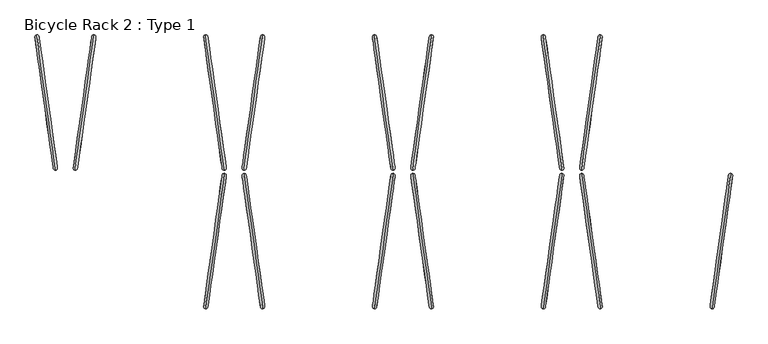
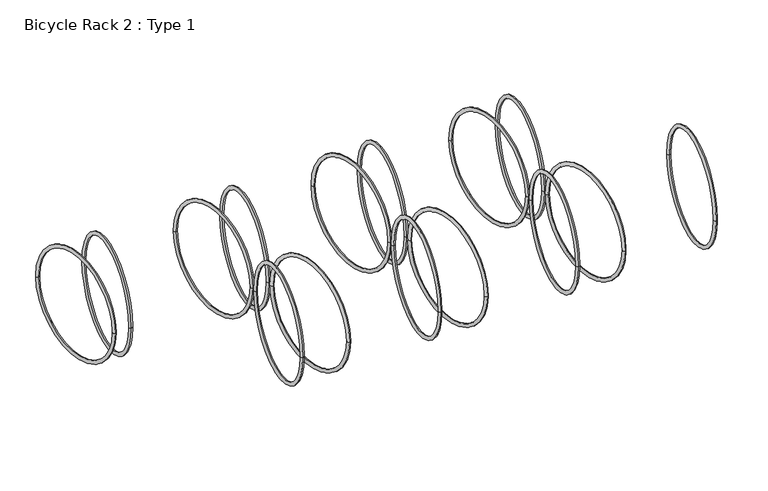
"""IFC4 building model written with IfcOpenShell, lengths in millimetres: proxy geometry, Bicycle Rack 2 : Type 1."""

from ifc_helpers import new_model, si_unit, point, frame, origin, place, context, project, spatial, circle_curve, ellipse_curve, trimmed, source, transform, mapped, element, save
from ifc_brep_helpers import revolved_surface, advanced_brep


def bicycle_rack_2_type_1_3c7dd6e2(model_context):
    return source(origin(), model_context, "Body", "AdvancedBrep", [
        advanced_brep(
        [(-608.2888305, 21.9255981, 304.7993564), (-539.7982681, 509.2612714, 304.7993564), (-537.5888952, 524.981777, 304.7993564), (-610.4982034, 6.2050925, 304.7993564)],
        [
            (0, 1, circle_curve(frame((-574.0435493, 265.5934347, 304.7993564), z_axis=(-0.9902680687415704, 0.13917310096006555, 0.0), x_axis=(0.13917310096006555, 0.9902680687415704, 0.0)), 246.0625)),
            (1, 2, circle_curve(frame((-538.6935817, 517.1215242, 304.7993564), z_axis=(0.0, 0.0, 1.0000000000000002), x_axis=(-0.13917310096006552, -0.9902680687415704, 0.0)), 7.9375)),
            (2, 3, circle_curve(frame((-574.0435493, 265.5934347, 304.7993564), z_axis=(0.9902680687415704, -0.13917310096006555, 0.0), x_axis=(0.13917310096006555, 0.9902680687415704, 0.0)), 261.9375)),
            (3, 0, circle_curve(frame((-609.3935169, 14.0653453, 304.7993564), z_axis=(0.0, 0.0, 1.0000000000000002), x_axis=(0.13917310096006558, 0.9902680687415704, 0.0)), 7.9375)),
            (2, 1, circle_curve(frame((-538.6935817, 517.1215242, 304.7993564), z_axis=(0.0, 0.0, 1.0000000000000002), x_axis=(-0.13917310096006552, -0.9902680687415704, 0.0)), 7.9375)),
            (0, 3, circle_curve(frame((-609.3935169, 14.0653453, 304.7993564), z_axis=(0.0, 0.0, 1.0000000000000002), x_axis=(0.13917310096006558, 0.9902680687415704, 0.0)), 7.9375)),
            (1, 0, circle_curve(frame((-574.0435493, 265.5934347, 304.7993564), z_axis=(-0.9902680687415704, 0.13917310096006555, 0.0), x_axis=(-0.13917310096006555, -0.9902680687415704, 0.0)), 246.0625)),
            (3, 2, circle_curve(frame((-574.0435493, 265.5934347, 304.7993564), z_axis=(0.9902680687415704, -0.13917310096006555, 0.0), x_axis=(-0.13917310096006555, -0.9902680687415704, 0.0)), 261.9375)),
        ],
        [
            revolved_surface(trimmed(ellipse_curve(frame((-538.6935817, 517.1215242, 304.7993564), z_axis=(0.0, 0.0, -1.0000000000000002), x_axis=(-0.13917310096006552, -0.9902680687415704, 0.0)), 7.9375, 7.9375), [point((-537.5888952, 524.981777, 304.7993564))], [point((-539.7982681, 509.2612714, 304.7993564))], True, "CARTESIAN"), (-762.6896164, 292.1059105, 304.7993564), (0.9902680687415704, -0.13917310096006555, 0.0)),
            revolved_surface(trimmed(ellipse_curve(frame((-538.6935817, 517.1215242, 304.7993564), z_axis=(0.0, 0.0, -1.0000000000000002), x_axis=(-0.13917310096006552, -0.9902680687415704, 0.0)), 7.9375, 7.9375), [point((-539.7982681, 509.2612714, 304.7993564))], [point((-537.5888952, 524.981777, 304.7993564))], True, "CARTESIAN"), (-762.6896164, 292.1059105, 304.7993564), (0.9902680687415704, -0.13917310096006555, 0.0)),
            revolved_surface(trimmed(ellipse_curve(frame((-609.3935169, 14.0653453, 304.7993564), z_axis=(0.0, 0.0, 1.0000000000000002), x_axis=(0.13917310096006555, 0.9902680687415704, 0.0)), 7.9375, 7.9375), [point((-610.4982034, 6.2050925, 304.7993564))], [point((-608.2888305, 21.9255981, 304.7993564))], True, "CARTESIAN"), (-762.6896164, 292.1059105, 304.7993564), (0.9902680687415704, -0.13917310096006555, 0.0)),
            revolved_surface(trimmed(ellipse_curve(frame((-609.3935169, 14.0653453, 304.7993564), z_axis=(0.0, 0.0, 1.0000000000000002), x_axis=(0.13917310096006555, 0.9902680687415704, 0.0)), 7.9375, 7.9375), [point((-608.2888305, 21.9255981, 304.7993564))], [point((-610.4982034, 6.2050925, 304.7993564))], True, "CARTESIAN"), (-762.6896164, 292.1059105, 304.7993564), (0.9902680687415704, -0.13917310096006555, 0.0)),
        ],
        [
            (0, [[1, 2, 3, 4]]),
            (1, [[-3, 5, -1, 6]]),
            (2, [[7, -4, 8, -2]]),
            (3, [[-8, -6, -7, -5]]),
        ],
    ),
        advanced_brep(
        [(-687.1111695, 21.9255981, 304.7993564), (-755.6017319, 509.2612714, 304.7993564), (-757.8111048, 524.981777, 304.7993564), (-684.9017966, 6.2050925, 304.7993564)],
        [
            (0, 1, circle_curve(frame((-721.3564507, 265.5934347, 304.7993564), z_axis=(-0.9902680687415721, -0.13917310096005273, 0.0), x_axis=(-0.13917310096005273, 0.9902680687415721, 0.0)), 246.0625)),
            (1, 2, circle_curve(frame((-756.7064183, 517.1215242, 304.7993564), z_axis=(0.0, 0.0, 1.0), x_axis=(0.13917310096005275, -0.9902680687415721, 0.0)), 7.9375)),
            (2, 3, circle_curve(frame((-721.3564507, 265.5934347, 304.7993564), z_axis=(0.9902680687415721, 0.13917310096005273, 0.0), x_axis=(-0.13917310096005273, 0.9902680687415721, 0.0)), 261.9375)),
            (3, 0, circle_curve(frame((-686.0064831, 14.0653453, 304.7993564), z_axis=(0.0, 0.0, 1.0), x_axis=(-0.1391731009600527, 0.9902680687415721, 0.0)), 7.9375)),
            (2, 1, circle_curve(frame((-756.7064183, 517.1215242, 304.7993564), z_axis=(0.0, 0.0, 1.0), x_axis=(0.13917310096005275, -0.9902680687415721, 0.0)), 7.9375)),
            (0, 3, circle_curve(frame((-686.0064831, 14.0653453, 304.7993564), z_axis=(0.0, 0.0, 1.0), x_axis=(-0.1391731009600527, 0.9902680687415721, 0.0)), 7.9375)),
            (1, 0, circle_curve(frame((-721.3564507, 265.5934347, 304.7993564), z_axis=(-0.9902680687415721, -0.13917310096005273, 0.0), x_axis=(0.13917310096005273, -0.9902680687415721, 0.0)), 246.0625)),
            (3, 2, circle_curve(frame((-721.3564507, 265.5934347, 304.7993564), z_axis=(0.9902680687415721, 0.13917310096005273, 0.0), x_axis=(0.13917310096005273, -0.9902680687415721, 0.0)), 261.9375)),
        ],
        [
            revolved_surface(trimmed(ellipse_curve(frame((-756.7064183, 517.1215242, 304.7993564), z_axis=(0.0, 0.0, -1.0), x_axis=(0.13917310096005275, -0.9902680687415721, 0.0)), 7.9375, 7.9375), [point((-757.8111048, 524.981777, 304.7993564))], [point((-755.6017319, 509.2612714, 304.7993564))], True, "CARTESIAN"), (-532.7103836, 292.1059105, 304.7993564), (0.9902680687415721, 0.13917310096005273, 0.0)),
            revolved_surface(trimmed(ellipse_curve(frame((-756.7064183, 517.1215242, 304.7993564), z_axis=(0.0, 0.0, -1.0), x_axis=(0.13917310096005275, -0.9902680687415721, 0.0)), 7.9375, 7.9375), [point((-755.6017319, 509.2612714, 304.7993564))], [point((-757.8111048, 524.981777, 304.7993564))], True, "CARTESIAN"), (-532.7103836, 292.1059105, 304.7993564), (0.9902680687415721, 0.13917310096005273, 0.0)),
            revolved_surface(trimmed(ellipse_curve(frame((-686.0064831, 14.0653453, 304.7993564), z_axis=(0.0, 0.0, 1.0), x_axis=(-0.1391731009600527, 0.9902680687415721, 0.0)), 7.9375, 7.9375), [point((-684.9017966, 6.2050925, 304.7993564))], [point((-687.1111695, 21.9255981, 304.7993564))], True, "CARTESIAN"), (-532.7103836, 292.1059105, 304.7993564), (0.9902680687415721, 0.13917310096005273, 0.0)),
            revolved_surface(trimmed(ellipse_curve(frame((-686.0064831, 14.0653453, 304.7993564), z_axis=(0.0, 0.0, 1.0), x_axis=(-0.1391731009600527, 0.9902680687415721, 0.0)), 7.9375, 7.9375), [point((-687.1111695, 21.9255981, 304.7993564))], [point((-684.9017966, 6.2050925, 304.7993564))], True, "CARTESIAN"), (-532.7103836, 292.1059105, 304.7993564), (0.9902680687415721, 0.13917310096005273, 0.0)),
        ],
        [
            (0, [[1, 2, 3, 4]]),
            (1, [[-3, 5, -1, 6]]),
            (2, [[7, -4, 8, -2]]),
            (3, [[-8, -6, -7, -5]]),
        ],
    ),
        advanced_brep(
        [(-39.4111695, -21.9255981, 304.7993564), (-107.9017319, -509.2612714, 304.7993564), (-110.1111048, -524.981777, 304.7993564), (-37.2017966, -6.2050925, 304.7993564)],
        [
            (0, 1, circle_curve(frame((-73.6564507, -265.5934347, 304.7993564), z_axis=(0.990268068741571, -0.13917310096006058, 0.0), x_axis=(-0.13917310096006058, -0.990268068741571, 0.0)), 246.0625)),
            (1, 2, circle_curve(frame((-109.0064183, -517.1215242, 304.7993564), z_axis=(0.0, 0.0, 1.0), x_axis=(0.13917310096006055, 0.990268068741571, 0.0)), 7.9375)),
            (2, 3, circle_curve(frame((-73.6564507, -265.5934347, 304.7993564), z_axis=(-0.990268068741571, 0.13917310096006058, 0.0), x_axis=(-0.13917310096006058, -0.990268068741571, 0.0)), 261.9375)),
            (3, 0, circle_curve(frame((-38.3064831, -14.0653453, 304.7993564), z_axis=(0.0, 0.0, 1.0), x_axis=(-0.1391731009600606, -0.990268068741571, 0.0)), 7.9375)),
            (2, 1, circle_curve(frame((-109.0064183, -517.1215242, 304.7993564), z_axis=(0.0, 0.0, 1.0), x_axis=(0.13917310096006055, 0.990268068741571, 0.0)), 7.9375)),
            (0, 3, circle_curve(frame((-38.3064831, -14.0653453, 304.7993564), z_axis=(0.0, 0.0, 1.0), x_axis=(-0.1391731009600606, -0.990268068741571, 0.0)), 7.9375)),
            (1, 0, circle_curve(frame((-73.6564507, -265.5934347, 304.7993564), z_axis=(0.990268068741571, -0.13917310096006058, 0.0), x_axis=(0.13917310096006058, 0.990268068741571, 0.0)), 246.0625)),
            (3, 2, circle_curve(frame((-73.6564507, -265.5934347, 304.7993564), z_axis=(-0.990268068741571, 0.13917310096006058, 0.0), x_axis=(0.13917310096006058, 0.990268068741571, 0.0)), 261.9375)),
        ],
        [
            revolved_surface(trimmed(ellipse_curve(frame((-109.0064183, -517.1215242, 304.7993564), z_axis=(0.0, 0.0, -1.0), x_axis=(0.13917310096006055, 0.990268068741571, 0.0)), 7.9375, 7.9375), [point((-110.1111048, -524.981777, 304.7993564))], [point((-107.9017319, -509.2612714, 304.7993564))], True, "CARTESIAN"), (114.9896164, -292.1059105, 304.7993564), (-0.990268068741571, 0.13917310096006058, 0.0)),
            revolved_surface(trimmed(ellipse_curve(frame((-109.0064183, -517.1215242, 304.7993564), z_axis=(0.0, 0.0, -1.0), x_axis=(0.13917310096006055, 0.990268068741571, 0.0)), 7.9375, 7.9375), [point((-107.9017319, -509.2612714, 304.7993564))], [point((-110.1111048, -524.981777, 304.7993564))], True, "CARTESIAN"), (114.9896164, -292.1059105, 304.7993564), (-0.990268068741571, 0.13917310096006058, 0.0)),
            revolved_surface(trimmed(ellipse_curve(frame((-38.3064831, -14.0653453, 304.7993564), z_axis=(0.0, 0.0, 1.0), x_axis=(-0.13917310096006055, -0.990268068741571, 0.0)), 7.9375, 7.9375), [point((-37.2017966, -6.2050925, 304.7993564))], [point((-39.4111695, -21.9255981, 304.7993564))], True, "CARTESIAN"), (114.9896164, -292.1059105, 304.7993564), (-0.990268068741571, 0.13917310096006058, 0.0)),
            revolved_surface(trimmed(ellipse_curve(frame((-38.3064831, -14.0653453, 304.7993564), z_axis=(0.0, 0.0, 1.0), x_axis=(-0.13917310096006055, -0.990268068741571, 0.0)), 7.9375, 7.9375), [point((-39.4111695, -21.9255981, 304.7993564))], [point((-37.2017966, -6.2050925, 304.7993564))], True, "CARTESIAN"), (114.9896164, -292.1059105, 304.7993564), (-0.990268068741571, 0.13917310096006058, 0.0)),
        ],
        [
            (0, [[1, 2, 3, 4]]),
            (1, [[-3, 5, -1, 6]]),
            (2, [[7, -4, 8, -2]]),
            (3, [[-8, -6, -7, -5]]),
        ],
    ),
        advanced_brep(
        [(39.4111695, -21.9255981, 304.7993564), (107.9017319, -509.2612714, 304.7993564), (110.1111048, -524.981777, 304.7993564), (37.2017966, -6.2050925, 304.7993564)],
        [
            (0, 1, circle_curve(frame((73.6564507, -265.5934347, 304.7993564), z_axis=(0.9902680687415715, 0.1391731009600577, 0.0), x_axis=(0.1391731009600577, -0.9902680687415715, 0.0)), 246.0625)),
            (1, 2, circle_curve(frame((109.0064183, -517.1215242, 304.7993564), z_axis=(0.0, 0.0, 1.0), x_axis=(-0.13917310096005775, 0.9902680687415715, 0.0)), 7.9375)),
            (2, 3, circle_curve(frame((73.6564507, -265.5934347, 304.7993564), z_axis=(-0.9902680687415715, -0.1391731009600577, 0.0), x_axis=(0.1391731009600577, -0.9902680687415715, 0.0)), 261.9375)),
            (3, 0, circle_curve(frame((38.3064831, -14.0653453, 304.7993564), z_axis=(0.0, 0.0, 1.0), x_axis=(0.13917310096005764, -0.9902680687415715, 0.0)), 7.9375)),
            (2, 1, circle_curve(frame((109.0064183, -517.1215242, 304.7993564), z_axis=(0.0, 0.0, 1.0), x_axis=(-0.13917310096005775, 0.9902680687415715, 0.0)), 7.9375)),
            (0, 3, circle_curve(frame((38.3064831, -14.0653453, 304.7993564), z_axis=(0.0, 0.0, 1.0), x_axis=(0.13917310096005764, -0.9902680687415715, 0.0)), 7.9375)),
            (1, 0, circle_curve(frame((73.6564507, -265.5934347, 304.7993564), z_axis=(0.9902680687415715, 0.1391731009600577, 0.0), x_axis=(-0.1391731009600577, 0.9902680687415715, 0.0)), 246.0625)),
            (3, 2, circle_curve(frame((73.6564507, -265.5934347, 304.7993564), z_axis=(-0.9902680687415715, -0.1391731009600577, 0.0), x_axis=(-0.1391731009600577, 0.9902680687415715, 0.0)), 261.9375)),
        ],
        [
            revolved_surface(trimmed(ellipse_curve(frame((109.0064183, -517.1215242, 304.7993564), z_axis=(0.0, 0.0, -1.0), x_axis=(-0.13917310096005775, 0.9902680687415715, 0.0)), 7.9375, 7.9375), [point((110.1111048, -524.981777, 304.7993564))], [point((107.9017319, -509.2612714, 304.7993564))], True, "CARTESIAN"), (-114.9896164, -292.1059105, 304.7993564), (-0.9902680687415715, -0.1391731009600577, 0.0)),
            revolved_surface(trimmed(ellipse_curve(frame((109.0064183, -517.1215242, 304.7993564), z_axis=(0.0, 0.0, -1.0), x_axis=(-0.13917310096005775, 0.9902680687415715, 0.0)), 7.9375, 7.9375), [point((107.9017319, -509.2612714, 304.7993564))], [point((110.1111048, -524.981777, 304.7993564))], True, "CARTESIAN"), (-114.9896164, -292.1059105, 304.7993564), (-0.9902680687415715, -0.1391731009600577, 0.0)),
            revolved_surface(trimmed(ellipse_curve(frame((38.3064831, -14.0653453, 304.7993564), z_axis=(0.0, 0.0, 1.0), x_axis=(0.1391731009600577, -0.9902680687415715, 0.0)), 7.9375, 7.9375), [point((37.2017966, -6.2050925, 304.7993564))], [point((39.4111695, -21.9255981, 304.7993564))], True, "CARTESIAN"), (-114.9896164, -292.1059105, 304.7993564), (-0.9902680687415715, -0.1391731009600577, 0.0)),
            revolved_surface(trimmed(ellipse_curve(frame((38.3064831, -14.0653453, 304.7993564), z_axis=(0.0, 0.0, 1.0), x_axis=(0.1391731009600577, -0.9902680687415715, 0.0)), 7.9375, 7.9375), [point((39.4111695, -21.9255981, 304.7993564))], [point((37.2017966, -6.2050925, 304.7993564))], True, "CARTESIAN"), (-114.9896164, -292.1059105, 304.7993564), (-0.9902680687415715, -0.1391731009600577, 0.0)),
        ],
        [
            (0, [[1, 2, 3, 4]]),
            (1, [[-3, 5, -1, 6]]),
            (2, [[7, -4, 8, -2]]),
            (3, [[-8, -6, -7, -5]]),
        ],
    ),
        advanced_brep(
        [(39.4111695, 21.9255981, 304.7993564), (107.9017319, 509.2612714, 304.7993564), (110.1111048, 524.981777, 304.7993564), (37.2017966, 6.2050925, 304.7993564)],
        [
            (0, 1, circle_curve(frame((73.6564507, 265.5934347, 304.7993564), z_axis=(-0.9902680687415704, 0.13917310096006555, 0.0), x_axis=(0.13917310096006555, 0.9902680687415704, 0.0)), 246.0625)),
            (1, 2, circle_curve(frame((109.0064183, 517.1215242, 304.7993564), z_axis=(0.0, 0.0, 1.0000000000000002), x_axis=(-0.13917310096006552, -0.9902680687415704, 0.0)), 7.9375)),
            (2, 3, circle_curve(frame((73.6564507, 265.5934347, 304.7993564), z_axis=(0.9902680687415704, -0.13917310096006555, 0.0), x_axis=(0.13917310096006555, 0.9902680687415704, 0.0)), 261.9375)),
            (3, 0, circle_curve(frame((38.3064831, 14.0653453, 304.7993564), z_axis=(0.0, 0.0, 1.0000000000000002), x_axis=(0.13917310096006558, 0.9902680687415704, 0.0)), 7.9375)),
            (2, 1, circle_curve(frame((109.0064183, 517.1215242, 304.7993564), z_axis=(0.0, 0.0, 1.0000000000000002), x_axis=(-0.13917310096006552, -0.9902680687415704, 0.0)), 7.9375)),
            (0, 3, circle_curve(frame((38.3064831, 14.0653453, 304.7993564), z_axis=(0.0, 0.0, 1.0000000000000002), x_axis=(0.13917310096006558, 0.9902680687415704, 0.0)), 7.9375)),
            (1, 0, circle_curve(frame((73.6564507, 265.5934347, 304.7993564), z_axis=(-0.9902680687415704, 0.13917310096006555, 0.0), x_axis=(-0.13917310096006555, -0.9902680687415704, 0.0)), 246.0625)),
            (3, 2, circle_curve(frame((73.6564507, 265.5934347, 304.7993564), z_axis=(0.9902680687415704, -0.13917310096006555, 0.0), x_axis=(-0.13917310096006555, -0.9902680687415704, 0.0)), 261.9375)),
        ],
        [
            revolved_surface(trimmed(ellipse_curve(frame((109.0064183, 517.1215242, 304.7993564), z_axis=(0.0, 0.0, -1.0000000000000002), x_axis=(-0.13917310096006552, -0.9902680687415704, 0.0)), 7.9375, 7.9375), [point((110.1111048, 524.981777, 304.7993564))], [point((107.9017319, 509.2612714, 304.7993564))], True, "CARTESIAN"), (-114.9896164, 292.1059105, 304.7993564), (0.9902680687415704, -0.13917310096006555, 0.0)),
            revolved_surface(trimmed(ellipse_curve(frame((109.0064183, 517.1215242, 304.7993564), z_axis=(0.0, 0.0, -1.0000000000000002), x_axis=(-0.13917310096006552, -0.9902680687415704, 0.0)), 7.9375, 7.9375), [point((107.9017319, 509.2612714, 304.7993564))], [point((110.1111048, 524.981777, 304.7993564))], True, "CARTESIAN"), (-114.9896164, 292.1059105, 304.7993564), (0.9902680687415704, -0.13917310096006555, 0.0)),
            revolved_surface(trimmed(ellipse_curve(frame((38.3064831, 14.0653453, 304.7993564), z_axis=(0.0, 0.0, 1.0000000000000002), x_axis=(0.13917310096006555, 0.9902680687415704, 0.0)), 7.9375, 7.9375), [point((37.2017966, 6.2050925, 304.7993564))], [point((39.4111695, 21.9255981, 304.7993564))], True, "CARTESIAN"), (-114.9896164, 292.1059105, 304.7993564), (0.9902680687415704, -0.13917310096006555, 0.0)),
            revolved_surface(trimmed(ellipse_curve(frame((38.3064831, 14.0653453, 304.7993564), z_axis=(0.0, 0.0, 1.0000000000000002), x_axis=(0.13917310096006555, 0.9902680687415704, 0.0)), 7.9375, 7.9375), [point((39.4111695, 21.9255981, 304.7993564))], [point((37.2017966, 6.2050925, 304.7993564))], True, "CARTESIAN"), (-114.9896164, 292.1059105, 304.7993564), (0.9902680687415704, -0.13917310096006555, 0.0)),
        ],
        [
            (0, [[1, 2, 3, 4]]),
            (1, [[-3, 5, -1, 6]]),
            (2, [[7, -4, 8, -2]]),
            (3, [[-8, -6, -7, -5]]),
        ],
    ),
        advanced_brep(
        [(-39.4111695, 21.9255981, 304.7993564), (-107.9017319, 509.2612714, 304.7993564), (-110.1111048, 524.981777, 304.7993564), (-37.2017966, 6.2050925, 304.7993564)],
        [
            (0, 1, circle_curve(frame((-73.6564507, 265.5934347, 304.7993564), z_axis=(-0.9902680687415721, -0.13917310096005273, 0.0), x_axis=(-0.13917310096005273, 0.9902680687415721, 0.0)), 246.0625)),
            (1, 2, circle_curve(frame((-109.0064183, 517.1215242, 304.7993564), z_axis=(0.0, 0.0, 1.0), x_axis=(0.13917310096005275, -0.9902680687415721, 0.0)), 7.9375)),
            (2, 3, circle_curve(frame((-73.6564507, 265.5934347, 304.7993564), z_axis=(0.9902680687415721, 0.13917310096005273, 0.0), x_axis=(-0.13917310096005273, 0.9902680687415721, 0.0)), 261.9375)),
            (3, 0, circle_curve(frame((-38.3064831, 14.0653453, 304.7993564), z_axis=(0.0, 0.0, 1.0), x_axis=(-0.1391731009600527, 0.9902680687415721, 0.0)), 7.9375)),
            (2, 1, circle_curve(frame((-109.0064183, 517.1215242, 304.7993564), z_axis=(0.0, 0.0, 1.0), x_axis=(0.13917310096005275, -0.9902680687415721, 0.0)), 7.9375)),
            (0, 3, circle_curve(frame((-38.3064831, 14.0653453, 304.7993564), z_axis=(0.0, 0.0, 1.0), x_axis=(-0.1391731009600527, 0.9902680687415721, 0.0)), 7.9375)),
            (1, 0, circle_curve(frame((-73.6564507, 265.5934347, 304.7993564), z_axis=(-0.9902680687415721, -0.13917310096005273, 0.0), x_axis=(0.13917310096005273, -0.9902680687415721, 0.0)), 246.0625)),
            (3, 2, circle_curve(frame((-73.6564507, 265.5934347, 304.7993564), z_axis=(0.9902680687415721, 0.13917310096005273, 0.0), x_axis=(0.13917310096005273, -0.9902680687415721, 0.0)), 261.9375)),
        ],
        [
            revolved_surface(trimmed(ellipse_curve(frame((-109.0064183, 517.1215242, 304.7993564), z_axis=(0.0, 0.0, -1.0), x_axis=(0.13917310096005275, -0.9902680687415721, 0.0)), 7.9375, 7.9375), [point((-110.1111048, 524.981777, 304.7993564))], [point((-107.9017319, 509.2612714, 304.7993564))], True, "CARTESIAN"), (114.9896164, 292.1059105, 304.7993564), (0.9902680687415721, 0.13917310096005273, 0.0)),
            revolved_surface(trimmed(ellipse_curve(frame((-109.0064183, 517.1215242, 304.7993564), z_axis=(0.0, 0.0, -1.0), x_axis=(0.13917310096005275, -0.9902680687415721, 0.0)), 7.9375, 7.9375), [point((-107.9017319, 509.2612714, 304.7993564))], [point((-110.1111048, 524.981777, 304.7993564))], True, "CARTESIAN"), (114.9896164, 292.1059105, 304.7993564), (0.9902680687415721, 0.13917310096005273, 0.0)),
            revolved_surface(trimmed(ellipse_curve(frame((-38.3064831, 14.0653453, 304.7993564), z_axis=(0.0, 0.0, 1.0), x_axis=(-0.1391731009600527, 0.9902680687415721, 0.0)), 7.9375, 7.9375), [point((-37.2017966, 6.2050925, 304.7993564))], [point((-39.4111695, 21.9255981, 304.7993564))], True, "CARTESIAN"), (114.9896164, 292.1059105, 304.7993564), (0.9902680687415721, 0.13917310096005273, 0.0)),
            revolved_surface(trimmed(ellipse_curve(frame((-38.3064831, 14.0653453, 304.7993564), z_axis=(0.0, 0.0, 1.0), x_axis=(-0.1391731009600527, 0.9902680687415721, 0.0)), 7.9375, 7.9375), [point((-39.4111695, 21.9255981, 304.7993564))], [point((-37.2017966, 6.2050925, 304.7993564))], True, "CARTESIAN"), (114.9896164, 292.1059105, 304.7993564), (0.9902680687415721, 0.13917310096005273, 0.0)),
        ],
        [
            (0, [[1, 2, 3, 4]]),
            (1, [[-3, 5, -1, 6]]),
            (2, [[7, -4, 8, -2]]),
            (3, [[-8, -6, -7, -5]]),
        ],
    ),
        advanced_brep(
        [(608.2888305, -21.9255981, 304.7993564), (539.7982681, -509.2612714, 304.7993564), (537.5888952, -524.981777, 304.7993564), (610.4982034, -6.2050925, 304.7993564)],
        [
            (0, 1, circle_curve(frame((574.0435493, -265.5934347, 304.7993564), z_axis=(0.990268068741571, -0.13917310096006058, 0.0), x_axis=(-0.13917310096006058, -0.990268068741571, 0.0)), 246.0625)),
            (1, 2, circle_curve(frame((538.6935817, -517.1215242, 304.7993564), z_axis=(0.0, 0.0, 1.0), x_axis=(0.13917310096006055, 0.990268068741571, 0.0)), 7.9375)),
            (2, 3, circle_curve(frame((574.0435493, -265.5934347, 304.7993564), z_axis=(-0.990268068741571, 0.13917310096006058, 0.0), x_axis=(-0.13917310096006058, -0.990268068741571, 0.0)), 261.9375)),
            (3, 0, circle_curve(frame((609.3935169, -14.0653453, 304.7993564), z_axis=(0.0, 0.0, 1.0), x_axis=(-0.1391731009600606, -0.990268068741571, 0.0)), 7.9375)),
            (2, 1, circle_curve(frame((538.6935817, -517.1215242, 304.7993564), z_axis=(0.0, 0.0, 1.0), x_axis=(0.13917310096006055, 0.990268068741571, 0.0)), 7.9375)),
            (0, 3, circle_curve(frame((609.3935169, -14.0653453, 304.7993564), z_axis=(0.0, 0.0, 1.0), x_axis=(-0.1391731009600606, -0.990268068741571, 0.0)), 7.9375)),
            (1, 0, circle_curve(frame((574.0435493, -265.5934347, 304.7993564), z_axis=(0.990268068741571, -0.13917310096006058, 0.0), x_axis=(0.13917310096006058, 0.990268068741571, 0.0)), 246.0625)),
            (3, 2, circle_curve(frame((574.0435493, -265.5934347, 304.7993564), z_axis=(-0.990268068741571, 0.13917310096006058, 0.0), x_axis=(0.13917310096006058, 0.990268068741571, 0.0)), 261.9375)),
        ],
        [
            revolved_surface(trimmed(ellipse_curve(frame((538.6935817, -517.1215242, 304.7993564), z_axis=(0.0, 0.0, -1.0), x_axis=(0.13917310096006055, 0.990268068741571, 0.0)), 7.9375, 7.9375), [point((537.5888952, -524.981777, 304.7993564))], [point((539.7982681, -509.2612714, 304.7993564))], True, "CARTESIAN"), (762.6896164, -292.1059105, 304.7993564), (-0.990268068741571, 0.13917310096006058, 0.0)),
            revolved_surface(trimmed(ellipse_curve(frame((538.6935817, -517.1215242, 304.7993564), z_axis=(0.0, 0.0, -1.0), x_axis=(0.13917310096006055, 0.990268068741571, 0.0)), 7.9375, 7.9375), [point((539.7982681, -509.2612714, 304.7993564))], [point((537.5888952, -524.981777, 304.7993564))], True, "CARTESIAN"), (762.6896164, -292.1059105, 304.7993564), (-0.990268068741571, 0.13917310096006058, 0.0)),
            revolved_surface(trimmed(ellipse_curve(frame((609.3935169, -14.0653453, 304.7993564), z_axis=(0.0, 0.0, 1.0), x_axis=(-0.13917310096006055, -0.990268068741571, 0.0)), 7.9375, 7.9375), [point((610.4982034, -6.2050925, 304.7993564))], [point((608.2888305, -21.9255981, 304.7993564))], True, "CARTESIAN"), (762.6896164, -292.1059105, 304.7993564), (-0.990268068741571, 0.13917310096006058, 0.0)),
            revolved_surface(trimmed(ellipse_curve(frame((609.3935169, -14.0653453, 304.7993564), z_axis=(0.0, 0.0, 1.0), x_axis=(-0.13917310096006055, -0.990268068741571, 0.0)), 7.9375, 7.9375), [point((608.2888305, -21.9255981, 304.7993564))], [point((610.4982034, -6.2050925, 304.7993564))], True, "CARTESIAN"), (762.6896164, -292.1059105, 304.7993564), (-0.990268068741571, 0.13917310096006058, 0.0)),
        ],
        [
            (0, [[1, 2, 3, 4]]),
            (1, [[-3, 5, -1, 6]]),
            (2, [[7, -4, 8, -2]]),
            (3, [[-8, -6, -7, -5]]),
        ],
    ),
        advanced_brep(
        [(687.1111695, -21.9255981, 304.7993564), (755.6017319, -509.2612714, 304.7993564), (757.8111048, -524.981777, 304.7993564), (684.9017966, -6.2050925, 304.7993564)],
        [
            (0, 1, circle_curve(frame((721.3564507, -265.5934347, 304.7993564), z_axis=(0.9902680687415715, 0.1391731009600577, 0.0), x_axis=(0.1391731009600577, -0.9902680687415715, 0.0)), 246.0625)),
            (1, 2, circle_curve(frame((756.7064183, -517.1215242, 304.7993564), z_axis=(0.0, 0.0, 1.0), x_axis=(-0.13917310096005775, 0.9902680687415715, 0.0)), 7.9375)),
            (2, 3, circle_curve(frame((721.3564507, -265.5934347, 304.7993564), z_axis=(-0.9902680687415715, -0.1391731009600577, 0.0), x_axis=(0.1391731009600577, -0.9902680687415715, 0.0)), 261.9375)),
            (3, 0, circle_curve(frame((686.0064831, -14.0653453, 304.7993564), z_axis=(0.0, 0.0, 1.0), x_axis=(0.13917310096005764, -0.9902680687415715, 0.0)), 7.9375)),
            (2, 1, circle_curve(frame((756.7064183, -517.1215242, 304.7993564), z_axis=(0.0, 0.0, 1.0), x_axis=(-0.13917310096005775, 0.9902680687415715, 0.0)), 7.9375)),
            (0, 3, circle_curve(frame((686.0064831, -14.0653453, 304.7993564), z_axis=(0.0, 0.0, 1.0), x_axis=(0.13917310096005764, -0.9902680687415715, 0.0)), 7.9375)),
            (1, 0, circle_curve(frame((721.3564507, -265.5934347, 304.7993564), z_axis=(0.9902680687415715, 0.1391731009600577, 0.0), x_axis=(-0.1391731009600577, 0.9902680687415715, 0.0)), 246.0625)),
            (3, 2, circle_curve(frame((721.3564507, -265.5934347, 304.7993564), z_axis=(-0.9902680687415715, -0.1391731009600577, 0.0), x_axis=(-0.1391731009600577, 0.9902680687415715, 0.0)), 261.9375)),
        ],
        [
            revolved_surface(trimmed(ellipse_curve(frame((756.7064183, -517.1215242, 304.7993564), z_axis=(0.0, 0.0, -1.0), x_axis=(-0.13917310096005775, 0.9902680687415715, 0.0)), 7.9375, 7.9375), [point((757.8111048, -524.981777, 304.7993564))], [point((755.6017319, -509.2612714, 304.7993564))], True, "CARTESIAN"), (532.7103836, -292.1059105, 304.7993564), (-0.9902680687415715, -0.1391731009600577, 0.0)),
            revolved_surface(trimmed(ellipse_curve(frame((756.7064183, -517.1215242, 304.7993564), z_axis=(0.0, 0.0, -1.0), x_axis=(-0.13917310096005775, 0.9902680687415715, 0.0)), 7.9375, 7.9375), [point((755.6017319, -509.2612714, 304.7993564))], [point((757.8111048, -524.981777, 304.7993564))], True, "CARTESIAN"), (532.7103836, -292.1059105, 304.7993564), (-0.9902680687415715, -0.1391731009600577, 0.0)),
            revolved_surface(trimmed(ellipse_curve(frame((686.0064831, -14.0653453, 304.7993564), z_axis=(0.0, 0.0, 1.0), x_axis=(0.1391731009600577, -0.9902680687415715, 0.0)), 7.9375, 7.9375), [point((684.9017966, -6.2050925, 304.7993564))], [point((687.1111695, -21.9255981, 304.7993564))], True, "CARTESIAN"), (532.7103836, -292.1059105, 304.7993564), (-0.9902680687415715, -0.1391731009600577, 0.0)),
            revolved_surface(trimmed(ellipse_curve(frame((686.0064831, -14.0653453, 304.7993564), z_axis=(0.0, 0.0, 1.0), x_axis=(0.1391731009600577, -0.9902680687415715, 0.0)), 7.9375, 7.9375), [point((687.1111695, -21.9255981, 304.7993564))], [point((684.9017966, -6.2050925, 304.7993564))], True, "CARTESIAN"), (532.7103836, -292.1059105, 304.7993564), (-0.9902680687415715, -0.1391731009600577, 0.0)),
        ],
        [
            (0, [[1, 2, 3, 4]]),
            (1, [[-3, 5, -1, 6]]),
            (2, [[7, -4, 8, -2]]),
            (3, [[-8, -6, -7, -5]]),
        ],
    ),
        advanced_brep(
        [(687.1111695, 21.9255981, 304.7993564), (755.6017319, 509.2612714, 304.7993564), (757.8111048, 524.981777, 304.7993564), (684.9017966, 6.2050925, 304.7993564)],
        [
            (0, 1, circle_curve(frame((721.3564507, 265.5934347, 304.7993564), z_axis=(-0.9902680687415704, 0.13917310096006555, 0.0), x_axis=(0.13917310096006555, 0.9902680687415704, 0.0)), 246.0625)),
            (1, 2, circle_curve(frame((756.7064183, 517.1215242, 304.7993564), z_axis=(0.0, 0.0, 1.0000000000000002), x_axis=(-0.13917310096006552, -0.9902680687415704, 0.0)), 7.9375)),
            (2, 3, circle_curve(frame((721.3564507, 265.5934347, 304.7993564), z_axis=(0.9902680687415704, -0.13917310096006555, 0.0), x_axis=(0.13917310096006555, 0.9902680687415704, 0.0)), 261.9375)),
            (3, 0, circle_curve(frame((686.0064831, 14.0653453, 304.7993564), z_axis=(0.0, 0.0, 1.0000000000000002), x_axis=(0.13917310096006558, 0.9902680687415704, 0.0)), 7.9375)),
            (2, 1, circle_curve(frame((756.7064183, 517.1215242, 304.7993564), z_axis=(0.0, 0.0, 1.0000000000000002), x_axis=(-0.13917310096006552, -0.9902680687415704, 0.0)), 7.9375)),
            (0, 3, circle_curve(frame((686.0064831, 14.0653453, 304.7993564), z_axis=(0.0, 0.0, 1.0000000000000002), x_axis=(0.13917310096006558, 0.9902680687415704, 0.0)), 7.9375)),
            (1, 0, circle_curve(frame((721.3564507, 265.5934347, 304.7993564), z_axis=(-0.9902680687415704, 0.13917310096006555, 0.0), x_axis=(-0.13917310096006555, -0.9902680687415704, 0.0)), 246.0625)),
            (3, 2, circle_curve(frame((721.3564507, 265.5934347, 304.7993564), z_axis=(0.9902680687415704, -0.13917310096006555, 0.0), x_axis=(-0.13917310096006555, -0.9902680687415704, 0.0)), 261.9375)),
        ],
        [
            revolved_surface(trimmed(ellipse_curve(frame((756.7064183, 517.1215242, 304.7993564), z_axis=(0.0, 0.0, -1.0000000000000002), x_axis=(-0.13917310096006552, -0.9902680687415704, 0.0)), 7.9375, 7.9375), [point((757.8111048, 524.981777, 304.7993564))], [point((755.6017319, 509.2612714, 304.7993564))], True, "CARTESIAN"), (532.7103836, 292.1059105, 304.7993564), (0.9902680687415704, -0.13917310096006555, 0.0)),
            revolved_surface(trimmed(ellipse_curve(frame((756.7064183, 517.1215242, 304.7993564), z_axis=(0.0, 0.0, -1.0000000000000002), x_axis=(-0.13917310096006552, -0.9902680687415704, 0.0)), 7.9375, 7.9375), [point((755.6017319, 509.2612714, 304.7993564))], [point((757.8111048, 524.981777, 304.7993564))], True, "CARTESIAN"), (532.7103836, 292.1059105, 304.7993564), (0.9902680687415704, -0.13917310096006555, 0.0)),
            revolved_surface(trimmed(ellipse_curve(frame((686.0064831, 14.0653453, 304.7993564), z_axis=(0.0, 0.0, 1.0000000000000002), x_axis=(0.13917310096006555, 0.9902680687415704, 0.0)), 7.9375, 7.9375), [point((684.9017966, 6.2050925, 304.7993564))], [point((687.1111695, 21.9255981, 304.7993564))], True, "CARTESIAN"), (532.7103836, 292.1059105, 304.7993564), (0.9902680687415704, -0.13917310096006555, 0.0)),
            revolved_surface(trimmed(ellipse_curve(frame((686.0064831, 14.0653453, 304.7993564), z_axis=(0.0, 0.0, 1.0000000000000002), x_axis=(0.13917310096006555, 0.9902680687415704, 0.0)), 7.9375, 7.9375), [point((687.1111695, 21.9255981, 304.7993564))], [point((684.9017966, 6.2050925, 304.7993564))], True, "CARTESIAN"), (532.7103836, 292.1059105, 304.7993564), (0.9902680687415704, -0.13917310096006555, 0.0)),
        ],
        [
            (0, [[1, 2, 3, 4]]),
            (1, [[-3, 5, -1, 6]]),
            (2, [[7, -4, 8, -2]]),
            (3, [[-8, -6, -7, -5]]),
        ],
    ),
        advanced_brep(
        [(608.2888305, 21.9255981, 304.7993564), (539.7982681, 509.2612714, 304.7993564), (537.5888952, 524.981777, 304.7993564), (610.4982034, 6.2050925, 304.7993564)],
        [
            (0, 1, circle_curve(frame((574.0435493, 265.5934347, 304.7993564), z_axis=(-0.9902680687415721, -0.13917310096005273, 0.0), x_axis=(-0.13917310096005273, 0.9902680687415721, 0.0)), 246.0625)),
            (1, 2, circle_curve(frame((538.6935817, 517.1215242, 304.7993564), z_axis=(0.0, 0.0, 1.0), x_axis=(0.13917310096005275, -0.9902680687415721, 0.0)), 7.9375)),
            (2, 3, circle_curve(frame((574.0435493, 265.5934347, 304.7993564), z_axis=(0.9902680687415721, 0.13917310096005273, 0.0), x_axis=(-0.13917310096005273, 0.9902680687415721, 0.0)), 261.9375)),
            (3, 0, circle_curve(frame((609.3935169, 14.0653453, 304.7993564), z_axis=(0.0, 0.0, 1.0), x_axis=(-0.1391731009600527, 0.9902680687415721, 0.0)), 7.9375)),
            (2, 1, circle_curve(frame((538.6935817, 517.1215242, 304.7993564), z_axis=(0.0, 0.0, 1.0), x_axis=(0.13917310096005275, -0.9902680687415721, 0.0)), 7.9375)),
            (0, 3, circle_curve(frame((609.3935169, 14.0653453, 304.7993564), z_axis=(0.0, 0.0, 1.0), x_axis=(-0.1391731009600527, 0.9902680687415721, 0.0)), 7.9375)),
            (1, 0, circle_curve(frame((574.0435493, 265.5934347, 304.7993564), z_axis=(-0.9902680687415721, -0.13917310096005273, 0.0), x_axis=(0.13917310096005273, -0.9902680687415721, 0.0)), 246.0625)),
            (3, 2, circle_curve(frame((574.0435493, 265.5934347, 304.7993564), z_axis=(0.9902680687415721, 0.13917310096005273, 0.0), x_axis=(0.13917310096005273, -0.9902680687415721, 0.0)), 261.9375)),
        ],
        [
            revolved_surface(trimmed(ellipse_curve(frame((538.6935817, 517.1215242, 304.7993564), z_axis=(0.0, 0.0, -1.0), x_axis=(0.13917310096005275, -0.9902680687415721, 0.0)), 7.9375, 7.9375), [point((537.5888952, 524.981777, 304.7993564))], [point((539.7982681, 509.2612714, 304.7993564))], True, "CARTESIAN"), (762.6896164, 292.1059105, 304.7993564), (0.9902680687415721, 0.13917310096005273, 0.0)),
            revolved_surface(trimmed(ellipse_curve(frame((538.6935817, 517.1215242, 304.7993564), z_axis=(0.0, 0.0, -1.0), x_axis=(0.13917310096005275, -0.9902680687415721, 0.0)), 7.9375, 7.9375), [point((539.7982681, 509.2612714, 304.7993564))], [point((537.5888952, 524.981777, 304.7993564))], True, "CARTESIAN"), (762.6896164, 292.1059105, 304.7993564), (0.9902680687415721, 0.13917310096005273, 0.0)),
            revolved_surface(trimmed(ellipse_curve(frame((609.3935169, 14.0653453, 304.7993564), z_axis=(0.0, 0.0, 1.0), x_axis=(-0.1391731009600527, 0.9902680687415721, 0.0)), 7.9375, 7.9375), [point((610.4982034, 6.2050925, 304.7993564))], [point((608.2888305, 21.9255981, 304.7993564))], True, "CARTESIAN"), (762.6896164, 292.1059105, 304.7993564), (0.9902680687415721, 0.13917310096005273, 0.0)),
            revolved_surface(trimmed(ellipse_curve(frame((609.3935169, 14.0653453, 304.7993564), z_axis=(0.0, 0.0, 1.0), x_axis=(-0.1391731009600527, 0.9902680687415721, 0.0)), 7.9375, 7.9375), [point((608.2888305, 21.9255981, 304.7993564))], [point((610.4982034, 6.2050925, 304.7993564))], True, "CARTESIAN"), (762.6896164, 292.1059105, 304.7993564), (0.9902680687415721, 0.13917310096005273, 0.0)),
        ],
        [
            (0, [[1, 2, 3, 4]]),
            (1, [[-3, 5, -1, 6]]),
            (2, [[7, -4, 8, -2]]),
            (3, [[-8, -6, -7, -5]]),
        ],
    ),
        advanced_brep(
        [(1255.9888305, -21.9255981, 304.7993564), (1187.4982681, -509.2612714, 304.7993564), (1185.2888952, -524.981777, 304.7993564), (1258.1982034, -6.2050925, 304.7993564)],
        [
            (0, 1, circle_curve(frame((1221.7435493, -265.5934347, 304.7993564), z_axis=(0.990268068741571, -0.13917310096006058, 0.0), x_axis=(-0.13917310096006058, -0.990268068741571, 0.0)), 246.0625)),
            (1, 2, circle_curve(frame((1186.3935817, -517.1215242, 304.7993564), z_axis=(0.0, 0.0, 1.0), x_axis=(0.13917310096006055, 0.990268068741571, 0.0)), 7.9375)),
            (2, 3, circle_curve(frame((1221.7435493, -265.5934347, 304.7993564), z_axis=(-0.990268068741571, 0.13917310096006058, 0.0), x_axis=(-0.13917310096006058, -0.990268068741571, 0.0)), 261.9375)),
            (3, 0, circle_curve(frame((1257.0935169, -14.0653453, 304.7993564), z_axis=(0.0, 0.0, 1.0), x_axis=(-0.1391731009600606, -0.990268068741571, 0.0)), 7.9375)),
            (2, 1, circle_curve(frame((1186.3935817, -517.1215242, 304.7993564), z_axis=(0.0, 0.0, 1.0), x_axis=(0.13917310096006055, 0.990268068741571, 0.0)), 7.9375)),
            (0, 3, circle_curve(frame((1257.0935169, -14.0653453, 304.7993564), z_axis=(0.0, 0.0, 1.0), x_axis=(-0.1391731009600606, -0.990268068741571, 0.0)), 7.9375)),
            (1, 0, circle_curve(frame((1221.7435493, -265.5934347, 304.7993564), z_axis=(0.990268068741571, -0.13917310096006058, 0.0), x_axis=(0.13917310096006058, 0.990268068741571, 0.0)), 246.0625)),
            (3, 2, circle_curve(frame((1221.7435493, -265.5934347, 304.7993564), z_axis=(-0.990268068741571, 0.13917310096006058, 0.0), x_axis=(0.13917310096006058, 0.990268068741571, 0.0)), 261.9375)),
        ],
        [
            revolved_surface(trimmed(ellipse_curve(frame((1186.3935817, -517.1215242, 304.7993564), z_axis=(0.0, 0.0, -1.0), x_axis=(0.13917310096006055, 0.990268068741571, 0.0)), 7.9375, 7.9375), [point((1185.2888952, -524.981777, 304.7993564))], [point((1187.4982681, -509.2612714, 304.7993564))], True, "CARTESIAN"), (1410.3896164, -292.1059105, 304.7993564), (-0.990268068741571, 0.13917310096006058, 0.0)),
            revolved_surface(trimmed(ellipse_curve(frame((1186.3935817, -517.1215242, 304.7993564), z_axis=(0.0, 0.0, -1.0), x_axis=(0.13917310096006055, 0.990268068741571, 0.0)), 7.9375, 7.9375), [point((1187.4982681, -509.2612714, 304.7993564))], [point((1185.2888952, -524.981777, 304.7993564))], True, "CARTESIAN"), (1410.3896164, -292.1059105, 304.7993564), (-0.990268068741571, 0.13917310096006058, 0.0)),
            revolved_surface(trimmed(ellipse_curve(frame((1257.0935169, -14.0653453, 304.7993564), z_axis=(0.0, 0.0, 1.0), x_axis=(-0.13917310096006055, -0.990268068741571, 0.0)), 7.9375, 7.9375), [point((1258.1982034, -6.2050925, 304.7993564))], [point((1255.9888305, -21.9255981, 304.7993564))], True, "CARTESIAN"), (1410.3896164, -292.1059105, 304.7993564), (-0.990268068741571, 0.13917310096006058, 0.0)),
            revolved_surface(trimmed(ellipse_curve(frame((1257.0935169, -14.0653453, 304.7993564), z_axis=(0.0, 0.0, 1.0), x_axis=(-0.13917310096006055, -0.990268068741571, 0.0)), 7.9375, 7.9375), [point((1255.9888305, -21.9255981, 304.7993564))], [point((1258.1982034, -6.2050925, 304.7993564))], True, "CARTESIAN"), (1410.3896164, -292.1059105, 304.7993564), (-0.990268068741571, 0.13917310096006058, 0.0)),
        ],
        [
            (0, [[1, 2, 3, 4]]),
            (1, [[-3, 5, -1, 6]]),
            (2, [[7, -4, 8, -2]]),
            (3, [[-8, -6, -7, -5]]),
        ],
    ),
        advanced_brep(
        [(1334.8111695, -21.9255981, 304.7993564), (1403.3017319, -509.2612714, 304.7993564), (1405.5111048, -524.981777, 304.7993564), (1332.6017966, -6.2050925, 304.7993564)],
        [
            (0, 1, circle_curve(frame((1369.0564507, -265.5934347, 304.7993564), z_axis=(0.9902680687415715, 0.1391731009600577, 0.0), x_axis=(0.1391731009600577, -0.9902680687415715, 0.0)), 246.0625)),
            (1, 2, circle_curve(frame((1404.4064183, -517.1215242, 304.7993564), z_axis=(0.0, 0.0, 1.0), x_axis=(-0.13917310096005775, 0.9902680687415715, 0.0)), 7.9375)),
            (2, 3, circle_curve(frame((1369.0564507, -265.5934347, 304.7993564), z_axis=(-0.9902680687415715, -0.1391731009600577, 0.0), x_axis=(0.1391731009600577, -0.9902680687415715, 0.0)), 261.9375)),
            (3, 0, circle_curve(frame((1333.7064831, -14.0653453, 304.7993564), z_axis=(0.0, 0.0, 1.0), x_axis=(0.13917310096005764, -0.9902680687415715, 0.0)), 7.9375)),
            (2, 1, circle_curve(frame((1404.4064183, -517.1215242, 304.7993564), z_axis=(0.0, 0.0, 1.0), x_axis=(-0.13917310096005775, 0.9902680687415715, 0.0)), 7.9375)),
            (0, 3, circle_curve(frame((1333.7064831, -14.0653453, 304.7993564), z_axis=(0.0, 0.0, 1.0), x_axis=(0.13917310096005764, -0.9902680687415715, 0.0)), 7.9375)),
            (1, 0, circle_curve(frame((1369.0564507, -265.5934347, 304.7993564), z_axis=(0.9902680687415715, 0.1391731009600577, 0.0), x_axis=(-0.1391731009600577, 0.9902680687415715, 0.0)), 246.0625)),
            (3, 2, circle_curve(frame((1369.0564507, -265.5934347, 304.7993564), z_axis=(-0.9902680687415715, -0.1391731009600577, 0.0), x_axis=(-0.1391731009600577, 0.9902680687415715, 0.0)), 261.9375)),
        ],
        [
            revolved_surface(trimmed(ellipse_curve(frame((1404.4064183, -517.1215242, 304.7993564), z_axis=(0.0, 0.0, -1.0), x_axis=(-0.13917310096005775, 0.9902680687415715, 0.0)), 7.9375, 7.9375), [point((1405.5111048, -524.981777, 304.7993564))], [point((1403.3017319, -509.2612714, 304.7993564))], True, "CARTESIAN"), (1180.4103836, -292.1059105, 304.7993564), (-0.9902680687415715, -0.1391731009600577, 0.0)),
            revolved_surface(trimmed(ellipse_curve(frame((1404.4064183, -517.1215242, 304.7993564), z_axis=(0.0, 0.0, -1.0), x_axis=(-0.13917310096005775, 0.9902680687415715, 0.0)), 7.9375, 7.9375), [point((1403.3017319, -509.2612714, 304.7993564))], [point((1405.5111048, -524.981777, 304.7993564))], True, "CARTESIAN"), (1180.4103836, -292.1059105, 304.7993564), (-0.9902680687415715, -0.1391731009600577, 0.0)),
            revolved_surface(trimmed(ellipse_curve(frame((1333.7064831, -14.0653453, 304.7993564), z_axis=(0.0, 0.0, 1.0), x_axis=(0.1391731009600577, -0.9902680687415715, 0.0)), 7.9375, 7.9375), [point((1332.6017966, -6.2050925, 304.7993564))], [point((1334.8111695, -21.9255981, 304.7993564))], True, "CARTESIAN"), (1180.4103836, -292.1059105, 304.7993564), (-0.9902680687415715, -0.1391731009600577, 0.0)),
            revolved_surface(trimmed(ellipse_curve(frame((1333.7064831, -14.0653453, 304.7993564), z_axis=(0.0, 0.0, 1.0), x_axis=(0.1391731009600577, -0.9902680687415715, 0.0)), 7.9375, 7.9375), [point((1334.8111695, -21.9255981, 304.7993564))], [point((1332.6017966, -6.2050925, 304.7993564))], True, "CARTESIAN"), (1180.4103836, -292.1059105, 304.7993564), (-0.9902680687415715, -0.1391731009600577, 0.0)),
        ],
        [
            (0, [[1, 2, 3, 4]]),
            (1, [[-3, 5, -1, 6]]),
            (2, [[7, -4, 8, -2]]),
            (3, [[-8, -6, -7, -5]]),
        ],
    ),
        advanced_brep(
        [(1334.8111695, 21.9255981, 304.7993564), (1403.3017319, 509.2612714, 304.7993564), (1405.5111048, 524.981777, 304.7993564), (1332.6017966, 6.2050925, 304.7993564)],
        [
            (0, 1, circle_curve(frame((1369.0564507, 265.5934347, 304.7993564), z_axis=(-0.9902680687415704, 0.13917310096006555, 0.0), x_axis=(0.13917310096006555, 0.9902680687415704, 0.0)), 246.0625)),
            (1, 2, circle_curve(frame((1404.4064183, 517.1215242, 304.7993564), z_axis=(0.0, 0.0, 1.0000000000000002), x_axis=(-0.13917310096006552, -0.9902680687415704, 0.0)), 7.9375)),
            (2, 3, circle_curve(frame((1369.0564507, 265.5934347, 304.7993564), z_axis=(0.9902680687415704, -0.13917310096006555, 0.0), x_axis=(0.13917310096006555, 0.9902680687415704, 0.0)), 261.9375)),
            (3, 0, circle_curve(frame((1333.7064831, 14.0653453, 304.7993564), z_axis=(0.0, 0.0, 1.0000000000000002), x_axis=(0.13917310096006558, 0.9902680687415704, 0.0)), 7.9375)),
            (2, 1, circle_curve(frame((1404.4064183, 517.1215242, 304.7993564), z_axis=(0.0, 0.0, 1.0000000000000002), x_axis=(-0.13917310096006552, -0.9902680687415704, 0.0)), 7.9375)),
            (0, 3, circle_curve(frame((1333.7064831, 14.0653453, 304.7993564), z_axis=(0.0, 0.0, 1.0000000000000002), x_axis=(0.13917310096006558, 0.9902680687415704, 0.0)), 7.9375)),
            (1, 0, circle_curve(frame((1369.0564507, 265.5934347, 304.7993564), z_axis=(-0.9902680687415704, 0.13917310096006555, 0.0), x_axis=(-0.13917310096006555, -0.9902680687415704, 0.0)), 246.0625)),
            (3, 2, circle_curve(frame((1369.0564507, 265.5934347, 304.7993564), z_axis=(0.9902680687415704, -0.13917310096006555, 0.0), x_axis=(-0.13917310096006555, -0.9902680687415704, 0.0)), 261.9375)),
        ],
        [
            revolved_surface(trimmed(ellipse_curve(frame((1404.4064183, 517.1215242, 304.7993564), z_axis=(0.0, 0.0, -1.0000000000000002), x_axis=(-0.13917310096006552, -0.9902680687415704, 0.0)), 7.9375, 7.9375), [point((1405.5111048, 524.981777, 304.7993564))], [point((1403.3017319, 509.2612714, 304.7993564))], True, "CARTESIAN"), (1180.4103836, 292.1059105, 304.7993564), (0.9902680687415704, -0.13917310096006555, 0.0)),
            revolved_surface(trimmed(ellipse_curve(frame((1404.4064183, 517.1215242, 304.7993564), z_axis=(0.0, 0.0, -1.0000000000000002), x_axis=(-0.13917310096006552, -0.9902680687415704, 0.0)), 7.9375, 7.9375), [point((1403.3017319, 509.2612714, 304.7993564))], [point((1405.5111048, 524.981777, 304.7993564))], True, "CARTESIAN"), (1180.4103836, 292.1059105, 304.7993564), (0.9902680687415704, -0.13917310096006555, 0.0)),
            revolved_surface(trimmed(ellipse_curve(frame((1333.7064831, 14.0653453, 304.7993564), z_axis=(0.0, 0.0, 1.0000000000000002), x_axis=(0.13917310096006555, 0.9902680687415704, 0.0)), 7.9375, 7.9375), [point((1332.6017966, 6.2050925, 304.7993564))], [point((1334.8111695, 21.9255981, 304.7993564))], True, "CARTESIAN"), (1180.4103836, 292.1059105, 304.7993564), (0.9902680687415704, -0.13917310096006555, 0.0)),
            revolved_surface(trimmed(ellipse_curve(frame((1333.7064831, 14.0653453, 304.7993564), z_axis=(0.0, 0.0, 1.0000000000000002), x_axis=(0.13917310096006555, 0.9902680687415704, 0.0)), 7.9375, 7.9375), [point((1334.8111695, 21.9255981, 304.7993564))], [point((1332.6017966, 6.2050925, 304.7993564))], True, "CARTESIAN"), (1180.4103836, 292.1059105, 304.7993564), (0.9902680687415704, -0.13917310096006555, 0.0)),
        ],
        [
            (0, [[1, 2, 3, 4]]),
            (1, [[-3, 5, -1, 6]]),
            (2, [[7, -4, 8, -2]]),
            (3, [[-8, -6, -7, -5]]),
        ],
    ),
        advanced_brep(
        [(1255.9888305, 21.9255981, 304.7993564), (1187.4982681, 509.2612714, 304.7993564), (1185.2888952, 524.981777, 304.7993564), (1258.1982034, 6.2050925, 304.7993564)],
        [
            (0, 1, circle_curve(frame((1221.7435493, 265.5934347, 304.7993564), z_axis=(-0.9902680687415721, -0.13917310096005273, 0.0), x_axis=(-0.13917310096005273, 0.9902680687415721, 0.0)), 246.0625)),
            (1, 2, circle_curve(frame((1186.3935817, 517.1215242, 304.7993564), z_axis=(0.0, 0.0, 1.0), x_axis=(0.13917310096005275, -0.9902680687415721, 0.0)), 7.9375)),
            (2, 3, circle_curve(frame((1221.7435493, 265.5934347, 304.7993564), z_axis=(0.9902680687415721, 0.13917310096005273, 0.0), x_axis=(-0.13917310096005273, 0.9902680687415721, 0.0)), 261.9375)),
            (3, 0, circle_curve(frame((1257.0935169, 14.0653453, 304.7993564), z_axis=(0.0, 0.0, 1.0), x_axis=(-0.1391731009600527, 0.9902680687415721, 0.0)), 7.9375)),
            (2, 1, circle_curve(frame((1186.3935817, 517.1215242, 304.7993564), z_axis=(0.0, 0.0, 1.0), x_axis=(0.13917310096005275, -0.9902680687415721, 0.0)), 7.9375)),
            (0, 3, circle_curve(frame((1257.0935169, 14.0653453, 304.7993564), z_axis=(0.0, 0.0, 1.0), x_axis=(-0.1391731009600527, 0.9902680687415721, 0.0)), 7.9375)),
            (1, 0, circle_curve(frame((1221.7435493, 265.5934347, 304.7993564), z_axis=(-0.9902680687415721, -0.13917310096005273, 0.0), x_axis=(0.13917310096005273, -0.9902680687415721, 0.0)), 246.0625)),
            (3, 2, circle_curve(frame((1221.7435493, 265.5934347, 304.7993564), z_axis=(0.9902680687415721, 0.13917310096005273, 0.0), x_axis=(0.13917310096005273, -0.9902680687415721, 0.0)), 261.9375)),
        ],
        [
            revolved_surface(trimmed(ellipse_curve(frame((1186.3935817, 517.1215242, 304.7993564), z_axis=(0.0, 0.0, -1.0), x_axis=(0.13917310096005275, -0.9902680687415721, 0.0)), 7.9375, 7.9375), [point((1185.2888952, 524.981777, 304.7993564))], [point((1187.4982681, 509.2612714, 304.7993564))], True, "CARTESIAN"), (1410.3896164, 292.1059105, 304.7993564), (0.9902680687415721, 0.13917310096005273, 0.0)),
            revolved_surface(trimmed(ellipse_curve(frame((1186.3935817, 517.1215242, 304.7993564), z_axis=(0.0, 0.0, -1.0), x_axis=(0.13917310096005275, -0.9902680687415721, 0.0)), 7.9375, 7.9375), [point((1187.4982681, 509.2612714, 304.7993564))], [point((1185.2888952, 524.981777, 304.7993564))], True, "CARTESIAN"), (1410.3896164, 292.1059105, 304.7993564), (0.9902680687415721, 0.13917310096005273, 0.0)),
            revolved_surface(trimmed(ellipse_curve(frame((1257.0935169, 14.0653453, 304.7993564), z_axis=(0.0, 0.0, 1.0), x_axis=(-0.1391731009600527, 0.9902680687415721, 0.0)), 7.9375, 7.9375), [point((1258.1982034, 6.2050925, 304.7993564))], [point((1255.9888305, 21.9255981, 304.7993564))], True, "CARTESIAN"), (1410.3896164, 292.1059105, 304.7993564), (0.9902680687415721, 0.13917310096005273, 0.0)),
            revolved_surface(trimmed(ellipse_curve(frame((1257.0935169, 14.0653453, 304.7993564), z_axis=(0.0, 0.0, 1.0), x_axis=(-0.1391731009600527, 0.9902680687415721, 0.0)), 7.9375, 7.9375), [point((1255.9888305, 21.9255981, 304.7993564))], [point((1258.1982034, 6.2050925, 304.7993564))], True, "CARTESIAN"), (1410.3896164, 292.1059105, 304.7993564), (0.9902680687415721, 0.13917310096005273, 0.0)),
        ],
        [
            (0, [[1, 2, 3, 4]]),
            (1, [[-3, 5, -1, 6]]),
            (2, [[7, -4, 8, -2]]),
            (3, [[-8, -6, -7, -5]]),
        ],
    ),
        advanced_brep(
        [(1903.6888305, -21.9255981, 304.7993564), (1835.1982681, -509.2612714, 304.7993564), (1832.9888952, -524.981777, 304.7993564), (1905.8982034, -6.2050925, 304.7993564)],
        [
            (0, 1, circle_curve(frame((1869.4435493, -265.5934347, 304.7993564), z_axis=(0.990268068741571, -0.13917310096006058, 0.0), x_axis=(-0.13917310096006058, -0.990268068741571, 0.0)), 246.0625)),
            (1, 2, circle_curve(frame((1834.0935817, -517.1215242, 304.7993564), z_axis=(0.0, 0.0, 1.0), x_axis=(0.13917310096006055, 0.990268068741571, 0.0)), 7.9375)),
            (2, 3, circle_curve(frame((1869.4435493, -265.5934347, 304.7993564), z_axis=(-0.990268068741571, 0.13917310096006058, 0.0), x_axis=(-0.13917310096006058, -0.990268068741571, 0.0)), 261.9375)),
            (3, 0, circle_curve(frame((1904.7935169, -14.0653453, 304.7993564), z_axis=(0.0, 0.0, 1.0), x_axis=(-0.1391731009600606, -0.990268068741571, 0.0)), 7.9375)),
            (2, 1, circle_curve(frame((1834.0935817, -517.1215242, 304.7993564), z_axis=(0.0, 0.0, 1.0), x_axis=(0.13917310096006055, 0.990268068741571, 0.0)), 7.9375)),
            (0, 3, circle_curve(frame((1904.7935169, -14.0653453, 304.7993564), z_axis=(0.0, 0.0, 1.0), x_axis=(-0.1391731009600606, -0.990268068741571, 0.0)), 7.9375)),
            (1, 0, circle_curve(frame((1869.4435493, -265.5934347, 304.7993564), z_axis=(0.990268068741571, -0.13917310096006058, 0.0), x_axis=(0.13917310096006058, 0.990268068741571, 0.0)), 246.0625)),
            (3, 2, circle_curve(frame((1869.4435493, -265.5934347, 304.7993564), z_axis=(-0.990268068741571, 0.13917310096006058, 0.0), x_axis=(0.13917310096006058, 0.990268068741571, 0.0)), 261.9375)),
        ],
        [
            revolved_surface(trimmed(ellipse_curve(frame((1834.0935817, -517.1215242, 304.7993564), z_axis=(0.0, 0.0, -1.0), x_axis=(0.13917310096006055, 0.990268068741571, 0.0)), 7.9375, 7.9375), [point((1832.9888952, -524.981777, 304.7993564))], [point((1835.1982681, -509.2612714, 304.7993564))], True, "CARTESIAN"), (2058.0896164, -292.1059105, 304.7993564), (-0.990268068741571, 0.13917310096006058, 0.0)),
            revolved_surface(trimmed(ellipse_curve(frame((1834.0935817, -517.1215242, 304.7993564), z_axis=(0.0, 0.0, -1.0), x_axis=(0.13917310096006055, 0.990268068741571, 0.0)), 7.9375, 7.9375), [point((1835.1982681, -509.2612714, 304.7993564))], [point((1832.9888952, -524.981777, 304.7993564))], True, "CARTESIAN"), (2058.0896164, -292.1059105, 304.7993564), (-0.990268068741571, 0.13917310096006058, 0.0)),
            revolved_surface(trimmed(ellipse_curve(frame((1904.7935169, -14.0653453, 304.7993564), z_axis=(0.0, 0.0, 1.0), x_axis=(-0.13917310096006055, -0.990268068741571, 0.0)), 7.9375, 7.9375), [point((1905.8982034, -6.2050925, 304.7993564))], [point((1903.6888305, -21.9255981, 304.7993564))], True, "CARTESIAN"), (2058.0896164, -292.1059105, 304.7993564), (-0.990268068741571, 0.13917310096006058, 0.0)),
            revolved_surface(trimmed(ellipse_curve(frame((1904.7935169, -14.0653453, 304.7993564), z_axis=(0.0, 0.0, 1.0), x_axis=(-0.13917310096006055, -0.990268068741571, 0.0)), 7.9375, 7.9375), [point((1903.6888305, -21.9255981, 304.7993564))], [point((1905.8982034, -6.2050925, 304.7993564))], True, "CARTESIAN"), (2058.0896164, -292.1059105, 304.7993564), (-0.990268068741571, 0.13917310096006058, 0.0)),
        ],
        [
            (0, [[1, 2, 3, 4]]),
            (1, [[-3, 5, -1, 6]]),
            (2, [[7, -4, 8, -2]]),
            (3, [[-8, -6, -7, -5]]),
        ],
    ),
    ])


if __name__ == "__main__":
    model = new_model("IFC4")
    model_context = context("Model", 3, world=origin())
    ifc_project = project(units=[si_unit("LENGTHUNIT", "METRE", prefix="MILLI")], contexts=[model_context])
    site = spatial("IfcSite", under=ifc_project)
    building = spatial("IfcBuilding", under=site)
    placement = place(None, origin())
    bicycle_rack_2_type_1_shape = bicycle_rack_2_type_1_3c7dd6e2(model_context)
    element("IfcBuildingElementProxy", 1, Name="Bicycle Rack 2 : Type 1", ObjectType="Bicycle Rack 2 : Type 1", at=placement, inside=building, context=model_context, shape_type="MappedRepresentation", body=[
        mapped(bicycle_rack_2_type_1_shape, transform((0.0, 0.0, 0.0), x_axis=(1.0, 0.0, 0.0), y_axis=(0.0, 1.0, 0.0), z_axis=(0.0, 0.0, 1.0))),
    ])
    save(model, "model.ifc")
